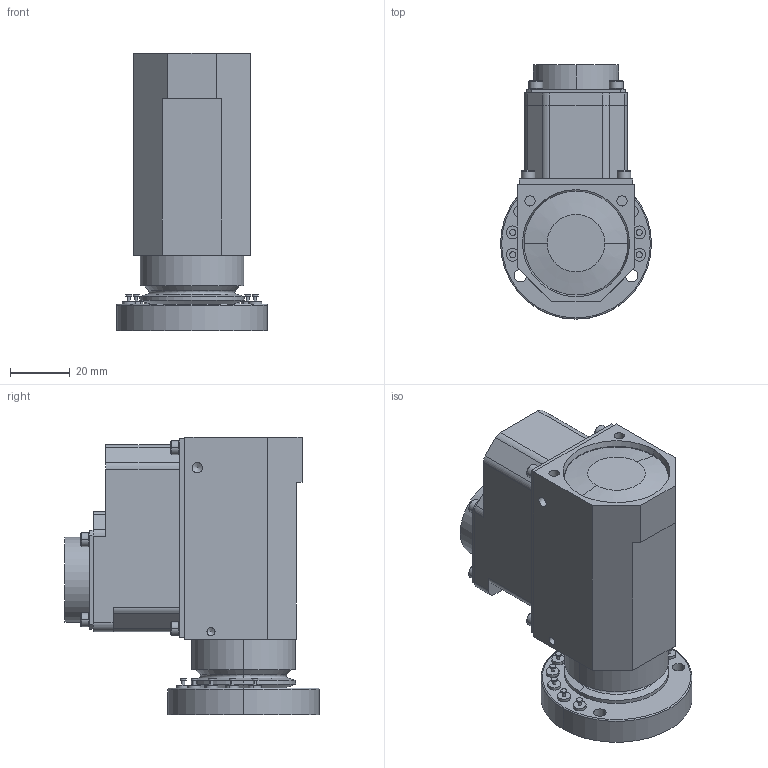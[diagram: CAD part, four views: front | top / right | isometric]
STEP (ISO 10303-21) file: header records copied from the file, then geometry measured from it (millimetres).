
FILE_DESCRIPTION (( 'STEP AP214' ), '1' );
FILE_NAME ('1012221.STEP', '2024-10-10T21:09:28', ( '' ), ( '' ), 'SwSTEP 2.0', 'SolidWorks 2021', '' );
FILE_SCHEMA (( 'AUTOMOTIVE_DESIGN' ));
Length unit declared in the file: inch
Products named in the file (1): 1012221
Bounding box: 50.77 x 85.38 x 93.38 mm (x, y, z)
Volume: 193672.1 mm3; surface area: 27217.1 mm2
Topology: 1 solids, 24 shells, 608 faces, 1388 edges, 874 vertices
Faces by surface type: cylinder 276, plane 169, cone 132, bspline 29, torus 2
Full cylindrical faces by diameter (mm): 2.705 x2, 3.454 x4
Entity records: 28061 total; most frequent: CARTESIAN_POINT 15017, ORIENTED_EDGE 2740, DIRECTION 2634, EDGE_CURVE 1370, AXIS2_PLACEMENT_3D 1039, VERTEX_POINT 868, EDGE_LOOP 692, FACE_OUTER_BOUND 614
